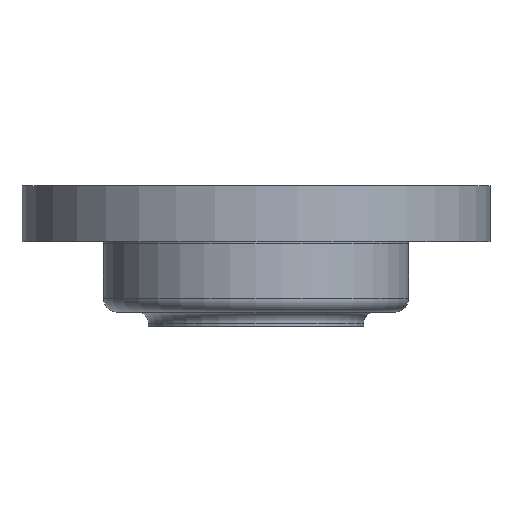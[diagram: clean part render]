
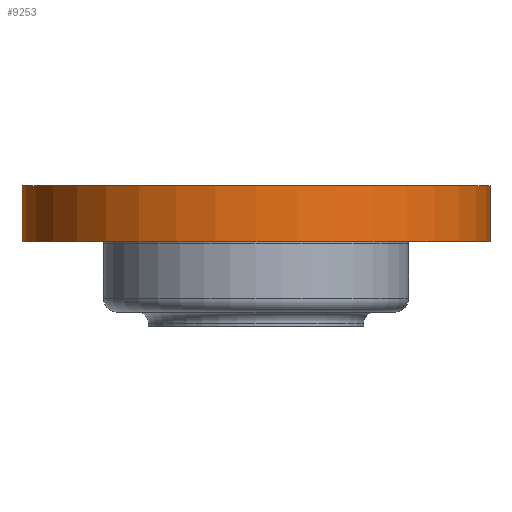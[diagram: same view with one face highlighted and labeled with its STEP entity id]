
A CAD part, front view. The second image highlights one B-rep face of the part: STEP entity #9253.
In plain terms, the highlighted cylindrical face has radius 25 mm (diameter 50 mm), a partial arc.
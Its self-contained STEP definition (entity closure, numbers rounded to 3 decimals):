
#7 = CIRCLE ( 'NONE', #7360, 25. ) ;
#42 = EDGE_CURVE ( 'NONE', #9899, #1375, #5430, .T. ) ;
#394 = EDGE_CURVE ( 'NONE', #10576, #9899, #9472, .T. ) ;
#497 = ORIENTED_EDGE ( 'NONE', *, *, #7145, .T. ) ;
#936 = CARTESIAN_POINT ( 'NONE',  ( -25., 0., 0. ) ) ;
#1375 = VERTEX_POINT ( 'NONE', #9969 ) ;
#1380 = CARTESIAN_POINT ( 'NONE',  ( 25., 0., 6. ) ) ;
#1417 = DIRECTION ( 'NONE',  ( 0., 0., -1. ) ) ;
#1645 = VERTEX_POINT ( 'NONE', #936 ) ;
#1850 = DIRECTION ( 'NONE',  ( 0., 0., -1. ) ) ;
#2161 = CARTESIAN_POINT ( 'NONE',  ( 0., 0., 6. ) ) ;
#2687 = VECTOR ( 'NONE', #1417, 1000. ) ;
#3746 = DIRECTION ( 'NONE',  ( 1., 0., 0. ) ) ;
#4233 = ORIENTED_EDGE ( 'NONE', *, *, #394, .F. ) ;
#4449 = ORIENTED_EDGE ( 'NONE', *, *, #42, .F. ) ;
#4646 = DIRECTION ( 'NONE',  ( -1., 0., 0. ) ) ;
#4877 = LINE ( 'NONE', #8419, #8388 ) ;
#5308 = CARTESIAN_POINT ( 'NONE',  ( 25., 0., 6. ) ) ;
#5430 = LINE ( 'NONE', #1380, #2687 ) ;
#5924 = DIRECTION ( 'NONE',  ( 0., 0., -1. ) ) ;
#6312 = CARTESIAN_POINT ( 'NONE',  ( -25., 0., 6. ) ) ;
#6824 = AXIS2_PLACEMENT_3D ( 'NONE', #2161, #8854, #3746 ) ;
#6972 = EDGE_CURVE ( 'NONE', #10576, #1645, #4877, .T. ) ;
#7145 = EDGE_CURVE ( 'NONE', #1645, #1375, #7, .T. ) ;
#7360 = AXIS2_PLACEMENT_3D ( 'NONE', #9500, #7750, #10275 ) ;
#7378 = AXIS2_PLACEMENT_3D ( 'NONE', #8725, #1850, #4646 ) ;
#7448 = CYLINDRICAL_SURFACE ( 'NONE', #7378, 25. ) ;
#7750 = DIRECTION ( 'NONE',  ( 0., 0., 1. ) ) ;
#8388 = VECTOR ( 'NONE', #5924, 1000. ) ;
#8419 = CARTESIAN_POINT ( 'NONE',  ( -25., 0., 6. ) ) ;
#8725 = CARTESIAN_POINT ( 'NONE',  ( 0., 0., 6. ) ) ;
#8854 = DIRECTION ( 'NONE',  ( 0., 0., 1. ) ) ;
#9253 = ADVANCED_FACE ( 'NONE', ( #10844 ), #7448, .T. ) ;
#9472 = CIRCLE ( 'NONE', #6824, 25. ) ;
#9500 = CARTESIAN_POINT ( 'NONE',  ( 0., 0., 0. ) ) ;
#9899 = VERTEX_POINT ( 'NONE', #5308 ) ;
#9969 = CARTESIAN_POINT ( 'NONE',  ( 25., 0., 0. ) ) ;
#10082 = ORIENTED_EDGE ( 'NONE', *, *, #6972, .T. ) ;
#10275 = DIRECTION ( 'NONE',  ( 1., 0., 0. ) ) ;
#10440 = EDGE_LOOP ( 'NONE', ( #4449, #4233, #10082, #497 ) ) ;
#10576 = VERTEX_POINT ( 'NONE', #6312 ) ;
#10844 = FACE_OUTER_BOUND ( 'NONE', #10440, .T. ) ;
